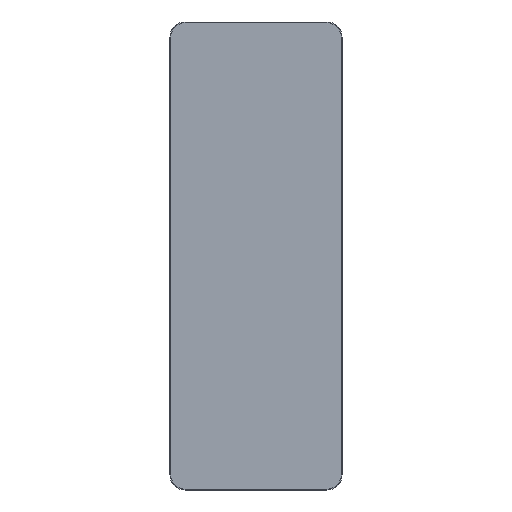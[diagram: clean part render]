
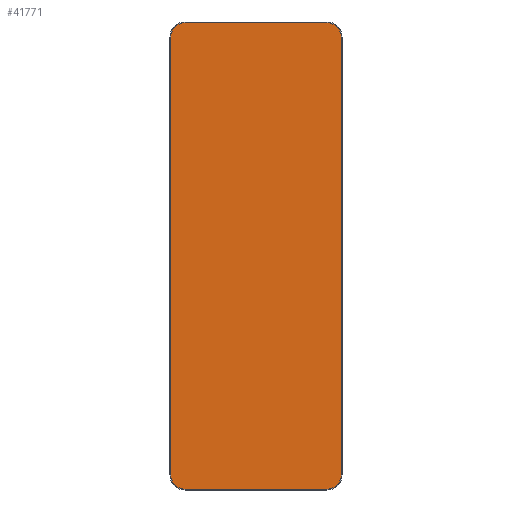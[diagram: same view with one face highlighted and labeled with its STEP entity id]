
A CAD part, top view. The second image highlights one B-rep face of the part: STEP entity #41771.
In plain terms, the highlighted planar face has unit normal (0, 0, 1).
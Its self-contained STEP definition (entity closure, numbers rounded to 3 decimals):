
#1403=CIRCLE('',#44336,4.75);
#1405=CIRCLE('',#44340,4.75);
#1407=CIRCLE('',#44344,4.75);
#1409=CIRCLE('',#44347,4.75);
#2930=FACE_OUTER_BOUND('',#5193,.T.);
#5193=EDGE_LOOP('',(#28508,#28509,#28510,#28511,#28512,#28513,#28514,#28515));
#7702=LINE('',#63870,#12179);
#7705=LINE('',#63882,#12182);
#7710=LINE('',#63899,#12187);
#7712=LINE('',#63902,#12189);
#12179=VECTOR('',#49070,10.);
#12182=VECTOR('',#49081,10.);
#12187=VECTOR('',#49100,10.);
#12189=VECTOR('',#49104,10.);
#17042=VERTEX_POINT('',#63857);
#17043=VERTEX_POINT('',#63858);
#17047=VERTEX_POINT('',#63868);
#17048=VERTEX_POINT('',#63872);
#17049=VERTEX_POINT('',#63873);
#17052=VERTEX_POINT('',#63881);
#17054=VERTEX_POINT('',#63887);
#17056=VERTEX_POINT('',#63893);
#21496=EDGE_CURVE('',#17042,#17043,#1403,.T.);
#21502=EDGE_CURVE('',#17042,#17047,#7702,.T.);
#21503=EDGE_CURVE('',#17048,#17049,#1405,.T.);
#21507=EDGE_CURVE('',#17052,#17049,#7705,.T.);
#21510=EDGE_CURVE('',#17052,#17054,#1407,.T.);
#21513=EDGE_CURVE('',#17056,#17047,#1409,.T.);
#21516=EDGE_CURVE('',#17056,#17054,#7710,.T.);
#21518=EDGE_CURVE('',#17048,#17043,#7712,.T.);
#28508=ORIENTED_EDGE('',*,*,#21496,.F.);
#28509=ORIENTED_EDGE('',*,*,#21502,.T.);
#28510=ORIENTED_EDGE('',*,*,#21513,.F.);
#28511=ORIENTED_EDGE('',*,*,#21516,.T.);
#28512=ORIENTED_EDGE('',*,*,#21510,.F.);
#28513=ORIENTED_EDGE('',*,*,#21507,.T.);
#28514=ORIENTED_EDGE('',*,*,#21503,.F.);
#28515=ORIENTED_EDGE('',*,*,#21518,.T.);
#40012=PLANE('',#44351);
#41771=ADVANCED_FACE('',(#2930),#40012,.T.);
#44336=AXIS2_PLACEMENT_3D('',#63859,#49060,#49061);
#44340=AXIS2_PLACEMENT_3D('',#63874,#49073,#49074);
#44344=AXIS2_PLACEMENT_3D('',#63888,#49086,#49087);
#44347=AXIS2_PLACEMENT_3D('',#63894,#49093,#49094);
#44351=AXIS2_PLACEMENT_3D('',#63904,#49106,#49107);
#49060=DIRECTION('center_axis',(0.,0.,
-1.));
#49061=DIRECTION('ref_axis',(0.707,-0.707,0.));
#49070=DIRECTION('',(0.,1.,0.));
#49073=DIRECTION('center_axis',(0.,0.,
-1.));
#49074=DIRECTION('ref_axis',(-0.707,-0.707,0.));
#49081=DIRECTION('',(0.,-1.,0.));
#49086=DIRECTION('center_axis',(0.,0.,
-1.));
#49087=DIRECTION('ref_axis',(-0.707,0.707,0.));
#49093=DIRECTION('center_axis',(0.,0.,
-1.));
#49094=DIRECTION('ref_axis',(0.707,0.707,0.));
#49100=DIRECTION('',(-1.,0.,0.));
#49104=DIRECTION('',(1.,0.,0.));
#49106=DIRECTION('center_axis',(0.,0.,
1.));
#49107=DIRECTION('ref_axis',(1.,0.,0.));
#63857=CARTESIAN_POINT('',(28.25,-72.5,5.2));
#63858=CARTESIAN_POINT('',(23.5,-77.25,5.2));
#63859=CARTESIAN_POINT('Origin',(23.5,-72.5,5.2));
#63868=CARTESIAN_POINT('',(28.25,72.5,5.2));
#63870=CARTESIAN_POINT('',(28.25,-77.25,5.2));
#63872=CARTESIAN_POINT('',(-23.5,-77.25,5.2));
#63873=CARTESIAN_POINT('',(-28.25,-72.5,5.2));
#63874=CARTESIAN_POINT('Origin',(-23.5,-72.5,5.2));
#63881=CARTESIAN_POINT('',(-28.25,72.5,5.2));
#63882=CARTESIAN_POINT('',(-28.25,77.25,5.2));
#63887=CARTESIAN_POINT('',(-23.5,77.25,5.2));
#63888=CARTESIAN_POINT('Origin',(-23.5,72.5,5.2));
#63893=CARTESIAN_POINT('',(23.5,77.25,5.2));
#63894=CARTESIAN_POINT('Origin',(23.5,72.5,5.2));
#63899=CARTESIAN_POINT('',(28.25,77.25,5.2));
#63902=CARTESIAN_POINT('',(-28.25,-77.25,5.2));
#63904=CARTESIAN_POINT('Origin',(0.,0.,
5.2));
